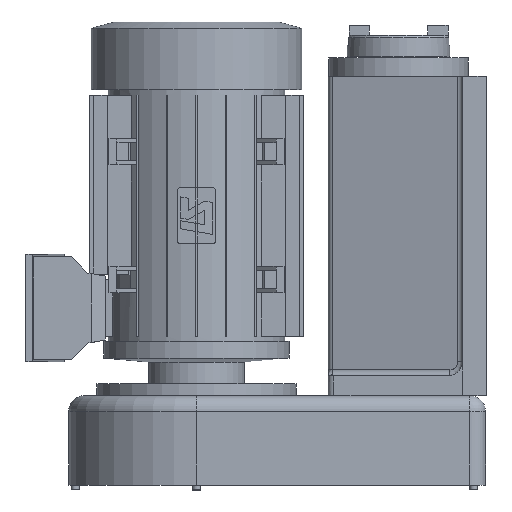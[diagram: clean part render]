
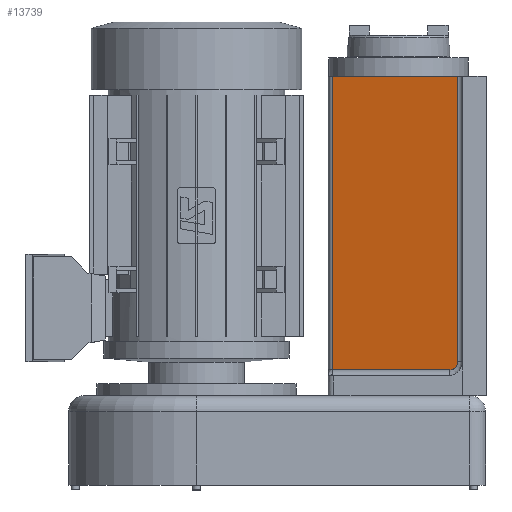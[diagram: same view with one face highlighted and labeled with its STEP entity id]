
A CAD part, left-side view. The second image highlights one B-rep face of the part: STEP entity #13739.
In plain terms, the highlighted planar face has unit normal (-0.966, 0.259, 0).
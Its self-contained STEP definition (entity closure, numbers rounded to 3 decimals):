
#11919=CARTESIAN_POINT('',(-78.974,82.441,400.0));
#11920=VERTEX_POINT('',#11919);
#11928=CARTESIAN_POINT('',(-121.011,-74.441,400.0));
#11929=VERTEX_POINT('',#11928);
#11930=CARTESIAN_POINT('',(-121.011,-74.441,400.0));
#11931=DIRECTION('',(0.259,0.966,0.0));
#11932=VECTOR('',#11931,162.416);
#11933=LINE('',#11930,#11932);
#11934=EDGE_CURVE('',#11929,#11920,#11933,.T.);
#13639=CARTESIAN_POINT('',(-118.331,-64.441,32.5));
#13640=VERTEX_POINT('',#13639);
#13659=CARTESIAN_POINT('',(-121.011,-74.441,42.5));
#13660=VERTEX_POINT('',#13659);
#13668=CARTESIAN_POINT('',(-118.331,-64.441,42.5));
#13669=DIRECTION('',(0.966,-0.259,0.0));
#13670=DIRECTION('',(-0.259,-0.966,0.));
#13671=AXIS2_PLACEMENT_3D('',#13668,#13669,#13670);
#13672=ELLIPSE('',#13671,10.353,10.0);
#13673=EDGE_CURVE('',#13660,#13640,#13672,.T.);
#13710=CARTESIAN_POINT('',(-122.5,-80.0,0.0));
#13711=DIRECTION('',(-0.966,0.259,0.0));
#13712=DIRECTION('',(0.0,0.0,1.0));
#13713=AXIS2_PLACEMENT_3D('',#13710,#13711,#13712);
#13714=PLANE('',#13713);
#13715=ORIENTED_EDGE('',*,*,#13673,.F.);
#13716=CARTESIAN_POINT('',(-121.011,-74.441,400.0));
#13717=DIRECTION('',(0.0,0.0,-1.0));
#13718=VECTOR('',#13717,357.5);
#13719=LINE('',#13716,#13718);
#13720=EDGE_CURVE('',#11929,#13660,#13719,.T.);
#13721=ORIENTED_EDGE('',*,*,#13720,.F.);
#13722=ORIENTED_EDGE('',*,*,#11934,.T.);
#13723=CARTESIAN_POINT('',(-78.974,82.441,32.5));
#13724=VERTEX_POINT('',#13723);
#13725=CARTESIAN_POINT('',(-78.974,82.441,32.5));
#13726=DIRECTION('',(0.0,0.0,1.0));
#13727=VECTOR('',#13726,367.5);
#13728=LINE('',#13725,#13727);
#13729=EDGE_CURVE('',#13724,#11920,#13728,.T.);
#13730=ORIENTED_EDGE('',*,*,#13729,.F.);
#13731=CARTESIAN_POINT('',(-118.331,-64.441,32.5));
#13732=DIRECTION('',(0.259,0.966,0.0));
#13733=VECTOR('',#13732,152.064);
#13734=LINE('',#13731,#13733);
#13735=EDGE_CURVE('',#13640,#13724,#13734,.T.);
#13736=ORIENTED_EDGE('',*,*,#13735,.F.);
#13737=EDGE_LOOP('',(#13715,#13721,#13722,#13730,#13736));
#13738=FACE_OUTER_BOUND('',#13737,.T.);
#13739=ADVANCED_FACE('',(#13738),#13714,.T.);
